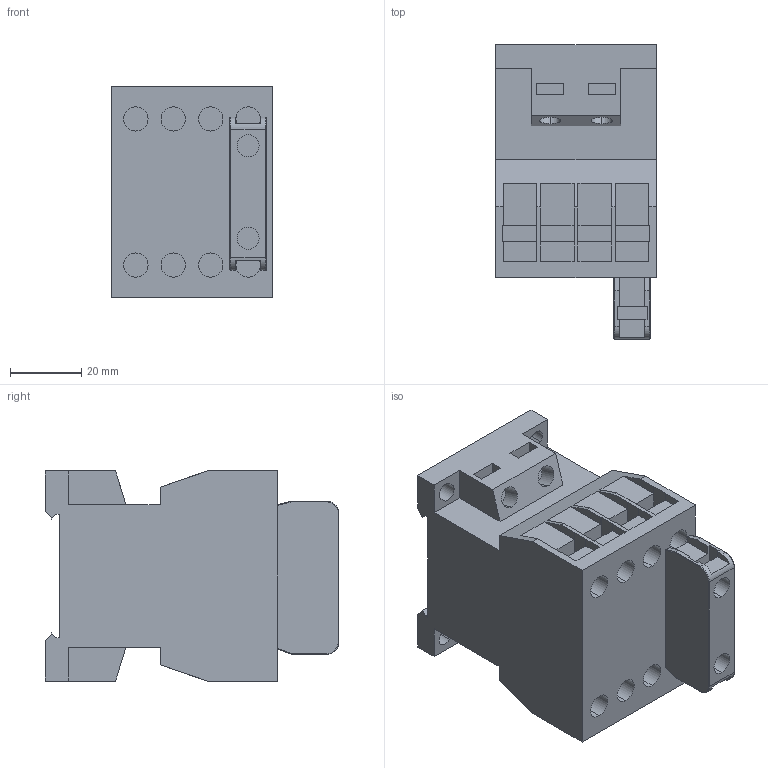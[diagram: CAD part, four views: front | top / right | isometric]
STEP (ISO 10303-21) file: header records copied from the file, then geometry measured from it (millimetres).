
FILE_DESCRIPTION (( 'STEP AP203' ), '1' );
FILE_NAME ('K3-07_10_14_18_22=.STEP', '2014-03-10T08:39:44', ( '' ), ( '' ), 'SwSTEP 2.0', 'SolidWorks 2014', '' );
FILE_SCHEMA (( 'CONFIG_CONTROL_DESIGN' ));
Length unit declared in the file: millimetre
Products named in the file (3): Imported; K3-07_10_14_18_22=; Imported_2
Assembly tree (2 placements, depth 2):
  K3-07_10_14_18_22=
    Imported
    Imported_2
Bounding box: 45 x 82.5 x 59 mm (x, y, z)
Volume: 143626.8 mm3; surface area: 28556.9 mm2
Topology: 2 solids, 2 shells, 234 faces, 666 edges, 440 vertices
Faces by surface type: plane 182, cylinder 48, bspline 4
Entity records: 7963 total; most frequent: CARTESIAN_POINT 1475, ORIENTED_EDGE 1332, DIRECTION 1212, EDGE_CURVE 666, VECTOR 566, LINE 566, VERTEX_POINT 440, AXIS2_PLACEMENT_3D 323
